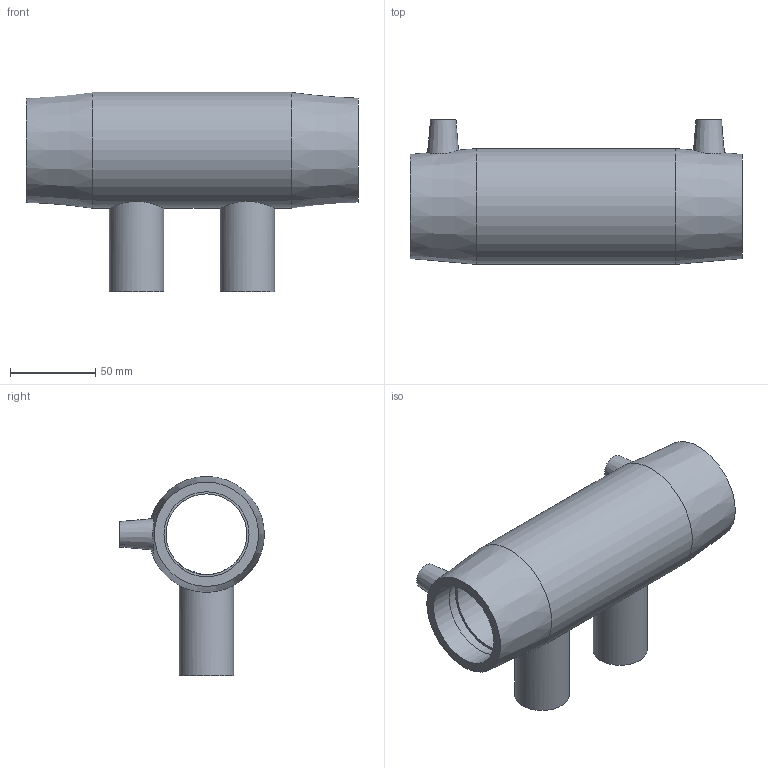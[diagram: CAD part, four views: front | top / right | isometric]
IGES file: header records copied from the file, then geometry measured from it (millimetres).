
Global section: file name: 492404050032.ipt; native system: Autodesk Inventor 2015; preprocessor: unknown; author: KIM; date: 20171106.093920; units: millimetre
Bounding box: 195 x 85 x 117 mm (x, y, z)
Volume: 340062.8 mm3; surface area: 94592.3 mm2
Topology: 1 solids, 1 shells, 34 faces, 82 edges, 60 vertices
Faces by surface type: plane 14, revolution 11, cylinder 5, cone 4
Full cylindrical faces by diameter (mm): 4 x2, 32 x2, 68 x1
